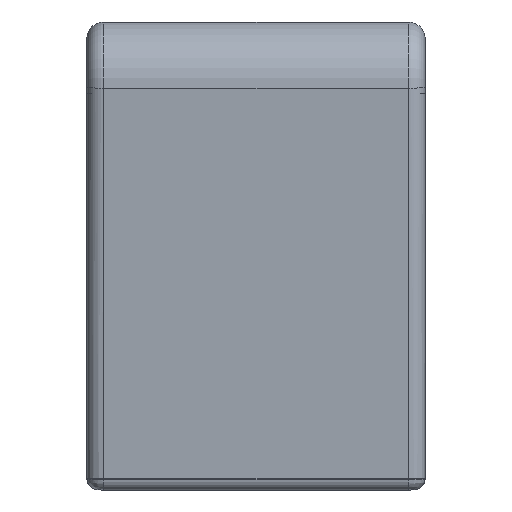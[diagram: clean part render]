
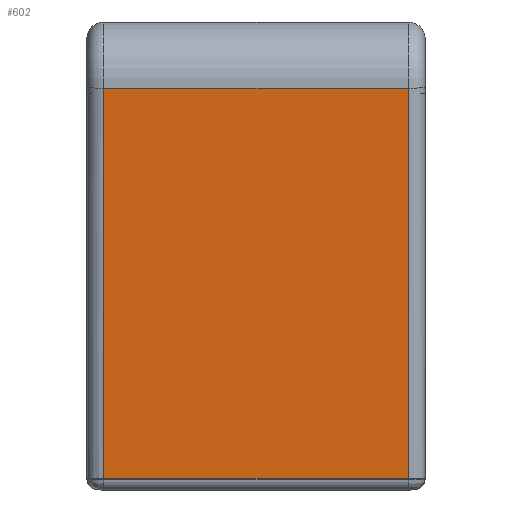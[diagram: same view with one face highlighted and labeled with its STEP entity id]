
A CAD part, left-side view. The second image highlights one B-rep face of the part: STEP entity #602.
In plain terms, the highlighted planar face has unit normal (-0.998, 0, -0.067).
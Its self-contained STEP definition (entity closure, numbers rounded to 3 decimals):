
#313 = EDGE_CURVE ( 'NONE', #4065, #4062, #878, .T. ) ;
#314 = EDGE_CURVE ( 'NONE', #4062, #4057, #876, .T. ) ;
#315 = EDGE_CURVE ( 'NONE', #4057, #4064, #874, .T. ) ;
#316 = EDGE_CURVE ( 'NONE', #4065, #4064, #870, .T. ) ;
#455 = EDGE_LOOP ( 'NONE', ( #1627, #1628, #1629, #1630 ) ) ;
#602 = ADVANCED_FACE ( 'NONE', ( #3469 ), #2426, .T. ) ;
#868 = VECTOR ( 'NONE', #4624, 1000. ) ;
#870 = LINE ( 'NONE', #4623, #868 ) ;
#873 = VECTOR ( 'NONE', #4622, 1000. ) ;
#874 = LINE ( 'NONE', #4621, #873 ) ;
#875 = VECTOR ( 'NONE', #4620, 1000. ) ;
#876 = LINE ( 'NONE', #4619, #875 ) ;
#877 = VECTOR ( 'NONE', #4618, 1000. ) ;
#878 = LINE ( 'NONE', #4617, #877 ) ;
#1627 = ORIENTED_EDGE ( 'NONE', *, *, #313, .T. ) ;
#1628 = ORIENTED_EDGE ( 'NONE', *, *, #314, .T. ) ;
#1629 = ORIENTED_EDGE ( 'NONE', *, *, #315, .T. ) ;
#1630 = ORIENTED_EDGE ( 'NONE', *, *, #316, .F. ) ;
#1714 = AXIS2_PLACEMENT_3D ( 'NONE', #2427, #2428, #2429 ) ;
#2426 = PLANE ( 'NONE',  #1714 ) ;
#2427 = CARTESIAN_POINT ( 'NONE',  ( -343., 15., -7. ) ) ;
#2428 = DIRECTION ( 'NONE',  ( -0.998, 0., -0.067 ) ) ;
#2429 = DIRECTION ( 'NONE',  ( -0.067, 0., 0.998 ) ) ;
#3469 = FACE_OUTER_BOUND ( 'NONE', #455, .T. ) ;
#3863 = CARTESIAN_POINT ( 'NONE',  ( -343.063, -13.5, -6.067 ) ) ;
#3868 = CARTESIAN_POINT ( 'NONE',  ( -343.063, 13.5, -6.067 ) ) ;
#3870 = CARTESIAN_POINT ( 'NONE',  ( -345.388, -13.5, 28.632 ) ) ;
#3871 = CARTESIAN_POINT ( 'NONE',  ( -345.388, 13.5, 28.632 ) ) ;
#4057 = VERTEX_POINT ( 'NONE', #3863 ) ;
#4062 = VERTEX_POINT ( 'NONE', #3868 ) ;
#4064 = VERTEX_POINT ( 'NONE', #3870 ) ;
#4065 = VERTEX_POINT ( 'NONE', #3871 ) ;
#4617 = CARTESIAN_POINT ( 'NONE',  ( -343., 13.5, -7. ) ) ;
#4618 = DIRECTION ( 'NONE',  ( 0.067, 0., -0.998 ) ) ;
#4619 = CARTESIAN_POINT ( 'NONE',  ( -343.063, 15., -6.067 ) ) ;
#4620 = DIRECTION ( 'NONE',  ( 0., -1., 0. ) ) ;
#4621 = CARTESIAN_POINT ( 'NONE',  ( -345.388, -13.5, 28.632 ) ) ;
#4622 = DIRECTION ( 'NONE',  ( -0.067, 0., 0.998 ) ) ;
#4623 = CARTESIAN_POINT ( 'NONE',  ( -345.388, 15., 28.632 ) ) ;
#4624 = DIRECTION ( 'NONE',  ( 0., -1., 0. ) ) ;
